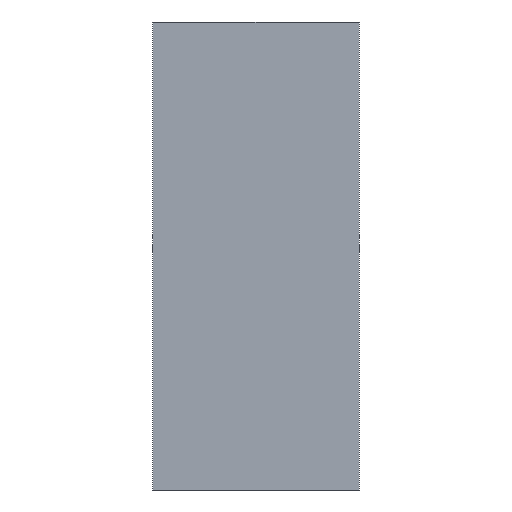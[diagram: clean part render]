
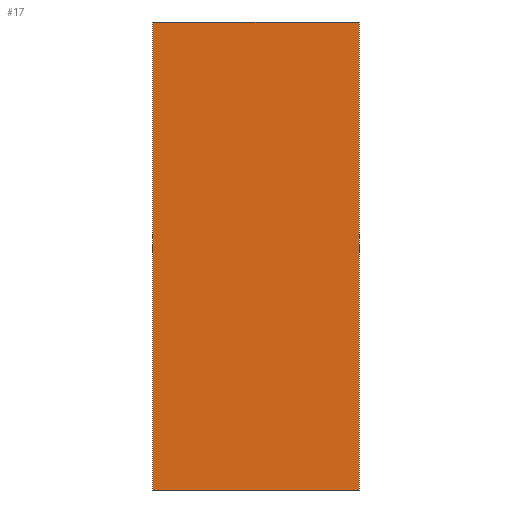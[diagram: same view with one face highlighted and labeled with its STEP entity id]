
A CAD part, front view. The second image highlights one B-rep face of the part: STEP entity #17.
In plain terms, the highlighted planar face has unit normal (0, -1, 0).
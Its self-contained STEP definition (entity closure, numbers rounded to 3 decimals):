
#17 = ADVANCED_FACE('',(#18),#32,.F.);
#18 = FACE_BOUND('',#19,.F.);
#19 = EDGE_LOOP('',(#20,#55,#83,#111));
#20 = ORIENTED_EDGE('',*,*,#21,.T.);
#21 = EDGE_CURVE('',#22,#24,#26,.T.);
#22 = VERTEX_POINT('',#23);
#23 = CARTESIAN_POINT('',(-1872.,-600.,650.));
#24 = VERTEX_POINT('',#25);
#25 = CARTESIAN_POINT('',(-1872.,-600.,877.));
#26 = SURFACE_CURVE('',#27,(#31,#43),.PCURVE_S1.);
#27 = LINE('',#28,#29);
#28 = CARTESIAN_POINT('',(-1872.,-600.,650.));
#29 = VECTOR('',#30,1.);
#30 = DIRECTION('',(0.,0.,1.));
#31 = PCURVE('',#32,#37);
#32 = PLANE('',#33);
#33 = AXIS2_PLACEMENT_3D('',#34,#35,#36);
#34 = CARTESIAN_POINT('',(-1872.,-600.,650.));
#35 = DIRECTION('',(0.,1.,0.));
#36 = DIRECTION('',(1.,0.,0.));
#37 = DEFINITIONAL_REPRESENTATION('',(#38),#42);
#38 = LINE('',#39,#40);
#39 = CARTESIAN_POINT('',(0.,0.));
#40 = VECTOR('',#41,1.);
#41 = DIRECTION('',(0.,-1.));
#42 = ( GEOMETRIC_REPRESENTATION_CONTEXT(2) 
PARAMETRIC_REPRESENTATION_CONTEXT() REPRESENTATION_CONTEXT('2D SPACE',''
  ) );
#43 = PCURVE('',#44,#49);
#44 = PLANE('',#45);
#45 = AXIS2_PLACEMENT_3D('',#46,#47,#48);
#46 = CARTESIAN_POINT('',(-1872.,-500.,650.));
#47 = DIRECTION('',(1.,0.,-0.));
#48 = DIRECTION('',(0.,-1.,0.));
#49 = DEFINITIONAL_REPRESENTATION('',(#50),#54);
#50 = LINE('',#51,#52);
#51 = CARTESIAN_POINT('',(100.,0.));
#52 = VECTOR('',#53,1.);
#53 = DIRECTION('',(0.,-1.));
#54 = ( GEOMETRIC_REPRESENTATION_CONTEXT(2) 
PARAMETRIC_REPRESENTATION_CONTEXT() REPRESENTATION_CONTEXT('2D SPACE',''
  ) );
#55 = ORIENTED_EDGE('',*,*,#56,.T.);
#56 = EDGE_CURVE('',#24,#57,#59,.T.);
#57 = VERTEX_POINT('',#58);
#58 = CARTESIAN_POINT('',(-1772.,-600.,877.));
#59 = SURFACE_CURVE('',#60,(#64,#71),.PCURVE_S1.);
#60 = LINE('',#61,#62);
#61 = CARTESIAN_POINT('',(-1872.,-600.,877.));
#62 = VECTOR('',#63,1.);
#63 = DIRECTION('',(1.,0.,0.));
#64 = PCURVE('',#32,#65);
#65 = DEFINITIONAL_REPRESENTATION('',(#66),#70);
#66 = LINE('',#67,#68);
#67 = CARTESIAN_POINT('',(0.,-227.));
#68 = VECTOR('',#69,1.);
#69 = DIRECTION('',(1.,0.));
#70 = ( GEOMETRIC_REPRESENTATION_CONTEXT(2) 
PARAMETRIC_REPRESENTATION_CONTEXT() REPRESENTATION_CONTEXT('2D SPACE',''
  ) );
#71 = PCURVE('',#72,#77);
#72 = PLANE('',#73);
#73 = AXIS2_PLACEMENT_3D('',#74,#75,#76);
#74 = CARTESIAN_POINT('',(-1822.,-550.,877.));
#75 = DIRECTION('',(0.,0.,1.));
#76 = DIRECTION('',(1.,0.,-0.));
#77 = DEFINITIONAL_REPRESENTATION('',(#78),#82);
#78 = LINE('',#79,#80);
#79 = CARTESIAN_POINT('',(-50.,-50.));
#80 = VECTOR('',#81,1.);
#81 = DIRECTION('',(1.,0.));
#82 = ( GEOMETRIC_REPRESENTATION_CONTEXT(2) 
PARAMETRIC_REPRESENTATION_CONTEXT() REPRESENTATION_CONTEXT('2D SPACE',''
  ) );
#83 = ORIENTED_EDGE('',*,*,#84,.F.);
#84 = EDGE_CURVE('',#85,#57,#87,.T.);
#85 = VERTEX_POINT('',#86);
#86 = CARTESIAN_POINT('',(-1772.,-600.,650.));
#87 = SURFACE_CURVE('',#88,(#92,#99),.PCURVE_S1.);
#88 = LINE('',#89,#90);
#89 = CARTESIAN_POINT('',(-1772.,-600.,650.));
#90 = VECTOR('',#91,1.);
#91 = DIRECTION('',(0.,0.,1.));
#92 = PCURVE('',#32,#93);
#93 = DEFINITIONAL_REPRESENTATION('',(#94),#98);
#94 = LINE('',#95,#96);
#95 = CARTESIAN_POINT('',(100.,0.));
#96 = VECTOR('',#97,1.);
#97 = DIRECTION('',(0.,-1.));
#98 = ( GEOMETRIC_REPRESENTATION_CONTEXT(2) 
PARAMETRIC_REPRESENTATION_CONTEXT() REPRESENTATION_CONTEXT('2D SPACE',''
  ) );
#99 = PCURVE('',#100,#105);
#100 = PLANE('',#101);
#101 = AXIS2_PLACEMENT_3D('',#102,#103,#104);
#102 = CARTESIAN_POINT('',(-1772.,-600.,650.));
#103 = DIRECTION('',(-1.,0.,0.));
#104 = DIRECTION('',(0.,1.,0.));
#105 = DEFINITIONAL_REPRESENTATION('',(#106),#110);
#106 = LINE('',#107,#108);
#107 = CARTESIAN_POINT('',(0.,0.));
#108 = VECTOR('',#109,1.);
#109 = DIRECTION('',(0.,-1.));
#110 = ( GEOMETRIC_REPRESENTATION_CONTEXT(2) 
PARAMETRIC_REPRESENTATION_CONTEXT() REPRESENTATION_CONTEXT('2D SPACE',''
  ) );
#111 = ORIENTED_EDGE('',*,*,#112,.F.);
#112 = EDGE_CURVE('',#22,#85,#113,.T.);
#113 = SURFACE_CURVE('',#114,(#118,#125),.PCURVE_S1.);
#114 = LINE('',#115,#116);
#115 = CARTESIAN_POINT('',(-1872.,-600.,650.));
#116 = VECTOR('',#117,1.);
#117 = DIRECTION('',(1.,0.,0.));
#118 = PCURVE('',#32,#119);
#119 = DEFINITIONAL_REPRESENTATION('',(#120),#124);
#120 = LINE('',#121,#122);
#121 = CARTESIAN_POINT('',(0.,0.));
#122 = VECTOR('',#123,1.);
#123 = DIRECTION('',(1.,0.));
#124 = ( GEOMETRIC_REPRESENTATION_CONTEXT(2) 
PARAMETRIC_REPRESENTATION_CONTEXT() REPRESENTATION_CONTEXT('2D SPACE',''
  ) );
#125 = PCURVE('',#126,#131);
#126 = PLANE('',#127);
#127 = AXIS2_PLACEMENT_3D('',#128,#129,#130);
#128 = CARTESIAN_POINT('',(-1822.,-550.,650.));
#129 = DIRECTION('',(0.,0.,1.));
#130 = DIRECTION('',(1.,0.,-0.));
#131 = DEFINITIONAL_REPRESENTATION('',(#132),#136);
#132 = LINE('',#133,#134);
#133 = CARTESIAN_POINT('',(-50.,-50.));
#134 = VECTOR('',#135,1.);
#135 = DIRECTION('',(1.,0.));
#136 = ( GEOMETRIC_REPRESENTATION_CONTEXT(2) 
PARAMETRIC_REPRESENTATION_CONTEXT() REPRESENTATION_CONTEXT('2D SPACE',''
  ) );
